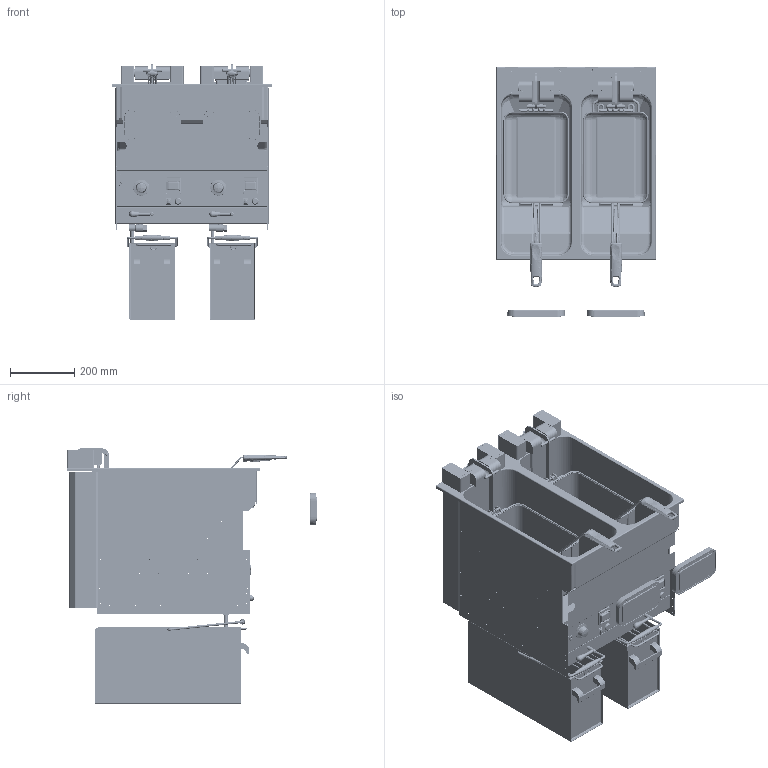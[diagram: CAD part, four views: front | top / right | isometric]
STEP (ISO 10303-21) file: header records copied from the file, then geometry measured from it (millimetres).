
FILE_DESCRIPTION(/* description */ (''),/* implementation_level */ '2;1');
FILE_NAME(/* name */ 'CORE SMART 2525 E',/* time_stamp */ '2025-10-22T13:27:50+02:00',/* author */ (''),/* organization */ (''),/* preprocessor_version */ 'ST-DEVELOPER v19.2',/* originating_system */ 'Rhino 8.23',/* authorisation */ '');
FILE_SCHEMA (('CONFIG_CONTROL_DESIGN'));
Products named in the file (1): Document
Bounding box: 496 x 778.5 x 795.9 mm (x, y, z)
Volume: 6000067.1 mm3; surface area: 8278826.6 mm2
Topology: 156 solids, 204 shells, 8650 faces, 22079 edges, 13880 vertices
Faces by surface type: cylinder 2980, plane 2920, bspline 2750
Full cylindrical faces by diameter (mm): 27 x2
Entity records: 468142 total; most frequent: CARTESIAN_POINT 292099, ORIENTED_EDGE 43602, EDGE_CURVE 21999, DIRECTION 20574, VERTEX_POINT 13880, B_SPLINE_CURVE_WITH_KNOTS 13511, AXIS2_PLACEMENT_3D 13237, EDGE_LOOP 9447
